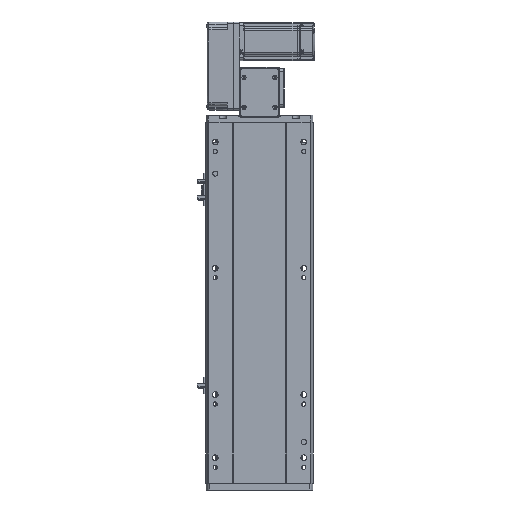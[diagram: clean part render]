
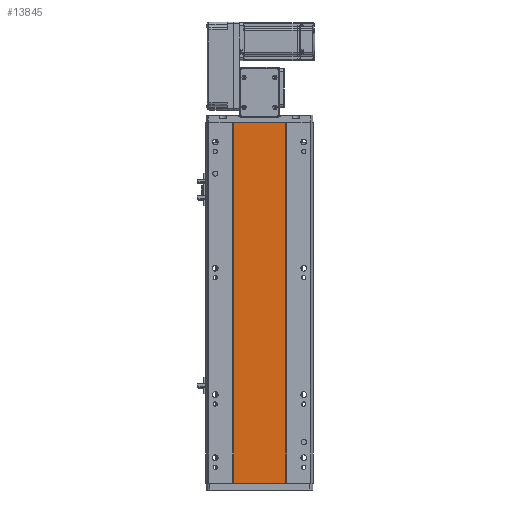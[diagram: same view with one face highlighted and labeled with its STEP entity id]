
A CAD part, front view. The second image highlights one B-rep face of the part: STEP entity #13845.
In plain terms, the highlighted planar face has unit normal (0, -1, 0).
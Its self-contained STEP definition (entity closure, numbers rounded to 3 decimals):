
#539 = DIRECTION ( 'NONE',  ( 1., 0., 0. ) ) ;
#885 = CARTESIAN_POINT ( 'NONE',  ( -41.791, 1., 571. ) ) ;
#2259 = DIRECTION ( 'NONE',  ( -1., 0., 0. ) ) ;
#2908 = VECTOR ( 'NONE', #35022, 1000. ) ;
#5129 = VERTEX_POINT ( 'NONE', #31361 ) ;
#5258 = VECTOR ( 'NONE', #38196, 1000. ) ;
#9296 = CARTESIAN_POINT ( 'NONE',  ( 0., 0.999, 0. ) ) ;
#10355 = VECTOR ( 'NONE', #38500, 1000. ) ;
#10382 = LINE ( 'NONE', #885, #5258 ) ;
#13845 = ADVANCED_FACE ( 'NONE', ( #41033 ), #30830, .F. ) ;
#15331 = EDGE_CURVE ( 'NONE', #58649, #46238, #10382, .T. ) ;
#19826 = EDGE_CURVE ( 'NONE', #46238, #29027, #39946, .T. ) ;
#19917 = EDGE_LOOP ( 'NONE', ( #57022, #27903, #56983, #36983 ) ) ;
#20009 = EDGE_CURVE ( 'NONE', #5129, #29027, #53344, .T. ) ;
#27903 = ORIENTED_EDGE ( 'NONE', *, *, #20009, .F. ) ;
#28508 = CARTESIAN_POINT ( 'NONE',  ( -41.791, 1., 571. ) ) ;
#29027 = VERTEX_POINT ( 'NONE', #49315 ) ;
#30830 = PLANE ( 'NONE',  #61026 ) ;
#30889 = CARTESIAN_POINT ( 'NONE',  ( -41.791, 1., 0. ) ) ;
#31361 = CARTESIAN_POINT ( 'NONE',  ( 41.793, 0.998, 571. ) ) ;
#35022 = DIRECTION ( 'NONE',  ( 0., 0., -1. ) ) ;
#35779 = DIRECTION ( 'NONE',  ( 0., 1., 0. ) ) ;
#36244 = VECTOR ( 'NONE', #539, 1000. ) ;
#36983 = ORIENTED_EDGE ( 'NONE', *, *, #15331, .T. ) ;
#38196 = DIRECTION ( 'NONE',  ( 0., 0., -1. ) ) ;
#38500 = DIRECTION ( 'NONE',  ( 1., 0., 0. ) ) ;
#39946 = LINE ( 'NONE', #9296, #36244 ) ;
#41033 = FACE_OUTER_BOUND ( 'NONE', #19917, .T. ) ;
#44198 = CARTESIAN_POINT ( 'NONE',  ( 41.793, 0.998, 571. ) ) ;
#46238 = VERTEX_POINT ( 'NONE', #30889 ) ;
#49315 = CARTESIAN_POINT ( 'NONE',  ( 41.793, 0.998, 0. ) ) ;
#53231 = CARTESIAN_POINT ( 'NONE',  ( 0., 0.999, 571. ) ) ;
#53344 = LINE ( 'NONE', #44198, #2908 ) ;
#55350 = CARTESIAN_POINT ( 'NONE',  ( 0., 0.999, 571. ) ) ;
#55660 = LINE ( 'NONE', #53231, #10355 ) ;
#56983 = ORIENTED_EDGE ( 'NONE', *, *, #59261, .F. ) ;
#57022 = ORIENTED_EDGE ( 'NONE', *, *, #19826, .T. ) ;
#58649 = VERTEX_POINT ( 'NONE', #28508 ) ;
#59261 = EDGE_CURVE ( 'NONE', #58649, #5129, #55660, .T. ) ;
#61026 = AXIS2_PLACEMENT_3D ( 'NONE', #55350, #35779, #2259 ) ;
